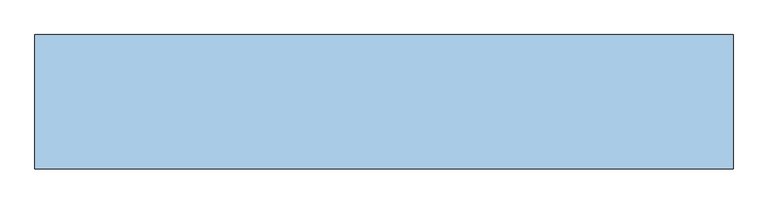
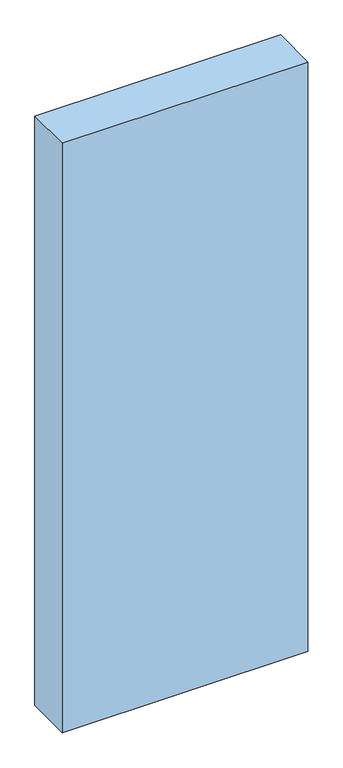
"""IFC4 building model written with IfcOpenShell, lengths in millimetres: window geometry, Dr_Проем-Четверти_об модель : ОК."""

from ifc_helpers import new_model, si_unit, frame, origin, place, context, project, spatial, polyline, outline, extrude, source, transform, mapped, element, save


def window_5a550e84(model_context):
    return source(origin(), model_context, "Body", "SweptSolid", [
        extrude(outline(polyline([(655.0, 100.0), (655.0, -100.0), (-385.0, -100.0), (-385.0, 100.0), (655.0, 100.0)])), frame((0.0, 0.0, -70.0), z_axis=(0.0, 0.0, 1.0), x_axis=(1.0, 0.0, 0.0)), (0.0, 0.0, 1.0), 2640.0),
    ])


if __name__ == "__main__":
    model = new_model("IFC4")
    model_context = context("Model", 3, world=origin())
    ifc_project = project(units=[si_unit("LENGTHUNIT", "METRE", prefix="MILLI")], contexts=[model_context])
    site = spatial("IfcSite", under=ifc_project)
    building = spatial("IfcBuilding", under=site)
    placement = place(None, origin())
    window_shape = window_5a550e84(model_context)
    element("IfcWindow", 1, ObjectType="Dr_Проем-Четверти_об модель : ОК", at=placement, inside=building, context=model_context, shape_type="MappedRepresentation", body=[
        mapped(window_shape, transform((0.0, 0.0, 0.0), x_axis=(1.0, 0.0, 0.0), y_axis=(0.0, 1.0, 0.0), z_axis=(0.0, 0.0, 1.0))),
    ])
    save(model, "model.ifc")
